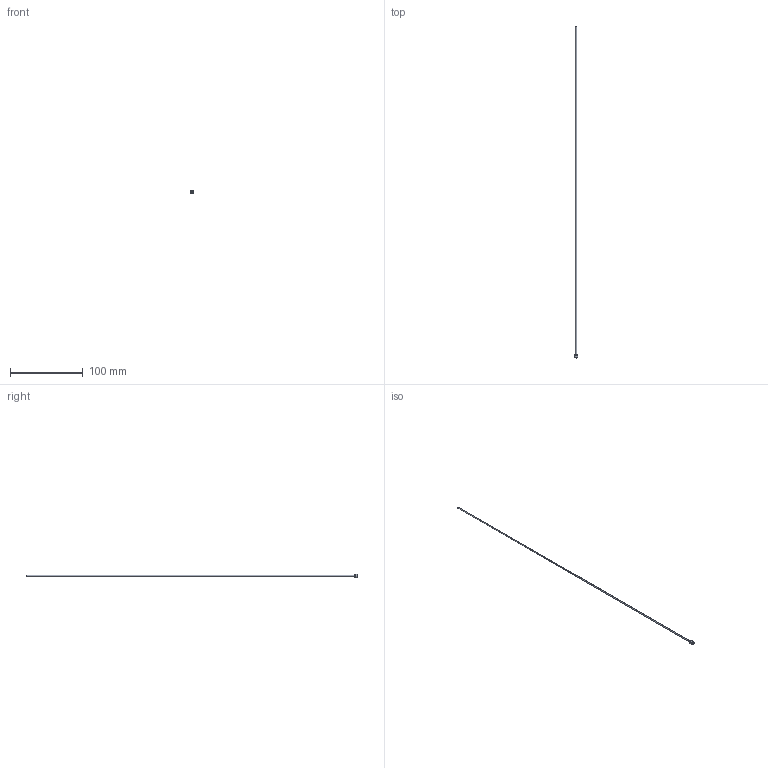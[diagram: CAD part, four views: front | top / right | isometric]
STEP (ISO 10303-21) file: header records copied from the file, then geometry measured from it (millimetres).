
FILE_DESCRIPTION(/* description */ (''),/* implementation_level */ '2;1');
FILE_NAME(/* name */ 'C:/Users/drich/Desktop/JHF072T-18 v1.step',/* time_stamp */ '2020-01-02T20:00:53-06:00',/* author */ (''),/* organization */ (''),/* preprocessor_version */ 'ST-DEVELOPER v18',/* originating_system */ 'Autodesk Translation Framework v8.12.0.6',/* authorisation */ '');
FILE_SCHEMA (('AUTOMOTIVE_DESIGN { 1 0 10303 214 3 1 1 }'));
Length unit declared in the file: inch
Products named in the file (1): JHF072T-18
Bounding box: 4.8 x 457.2 x 4.8 mm (x, y, z)
Volume: 443.2 mm3; surface area: 4889.4 mm2
Topology: 1 solids, 1 shells, 10 faces, 25 edges, 19 vertices
Faces by surface type: cylinder 4, plane 4, cone 1, torus 1
Full cylindrical faces by diameter (mm): 1.524 x1, 1.829 x1, 4.75 x1, 4.801 x1
Entity records: 364 total; most frequent: DIRECTION 67, CARTESIAN_POINT 55, ORIENTED_EDGE 50, AXIS2_PLACEMENT_3D 31, EDGE_CURVE 25, CIRCLE 20, VERTEX_POINT 19, EDGE_LOOP 14
